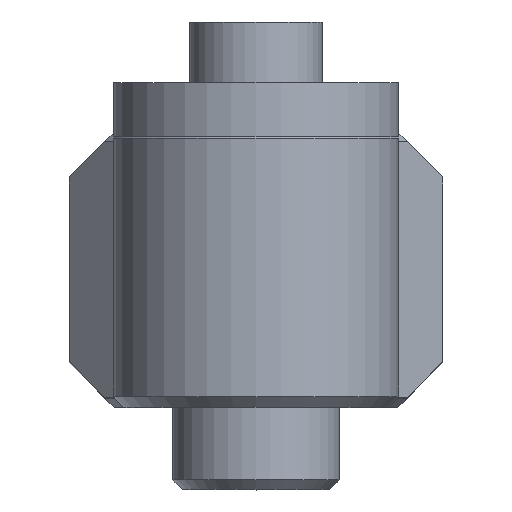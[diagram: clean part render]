
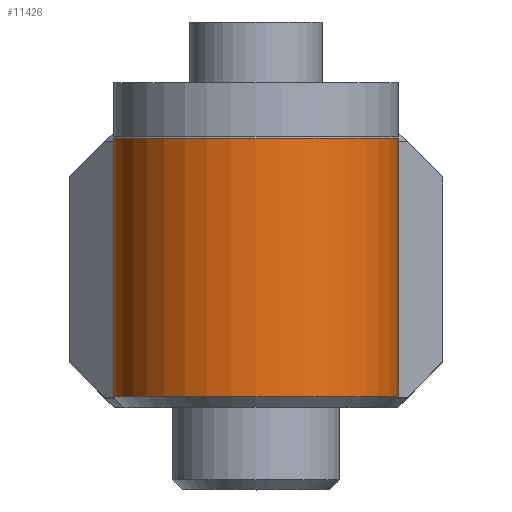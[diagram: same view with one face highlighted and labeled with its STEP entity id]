
A CAD part, top view. The second image highlights one B-rep face of the part: STEP entity #11426.
In plain terms, the highlighted cylindrical face has radius 54 mm (diameter 108 mm), a partial arc.
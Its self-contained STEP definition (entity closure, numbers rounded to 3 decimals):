
#20 = CARTESIAN_POINT ( 'NONE',  ( -54., 280., -49. ) ) ;
#201 = LINE ( 'NONE', #11009, #1800 ) ;
#388 = DIRECTION ( 'NONE',  ( 1., 0., 0. ) ) ;
#726 = CYLINDRICAL_SURFACE ( 'NONE', #1933, 54. ) ;
#874 = EDGE_LOOP ( 'NONE', ( #11788, #7705, #10899, #1501 ) ) ;
#1065 = CARTESIAN_POINT ( 'NONE',  ( 54., 280., 49. ) ) ;
#1400 = CARTESIAN_POINT ( 'NONE',  ( 0., 280., 49. ) ) ;
#1501 = ORIENTED_EDGE ( 'NONE', *, *, #10725, .T. ) ;
#1800 = VECTOR ( 'NONE', #6225, 1000. ) ;
#1808 = CARTESIAN_POINT ( 'NONE',  ( 0., 280., 45. ) ) ;
#1933 = AXIS2_PLACEMENT_3D ( 'NONE', #1808, #9638, #4711 ) ;
#3813 = EDGE_CURVE ( 'NONE', #5228, #5872, #5385, .T. ) ;
#4295 = VECTOR ( 'NONE', #12896, 1000. ) ;
#4375 = CARTESIAN_POINT ( 'NONE',  ( 0., 280., -49. ) ) ;
#4711 = DIRECTION ( 'NONE',  ( -1., 0., 0. ) ) ;
#5228 = VERTEX_POINT ( 'NONE', #7487 ) ;
#5385 = LINE ( 'NONE', #7114, #4295 ) ;
#5872 = VERTEX_POINT ( 'NONE', #1065 ) ;
#6086 = EDGE_CURVE ( 'NONE', #5228, #6335, #7925, .T. ) ;
#6179 = FACE_OUTER_BOUND ( 'NONE', #874, .T. ) ;
#6225 = DIRECTION ( 'NONE',  ( 0., 0., 1. ) ) ;
#6238 = CARTESIAN_POINT ( 'NONE',  ( -54., 280., 49. ) ) ;
#6335 = VERTEX_POINT ( 'NONE', #20 ) ;
#6656 = EDGE_CURVE ( 'NONE', #6335, #7986, #201, .T. ) ;
#7114 = CARTESIAN_POINT ( 'NONE',  ( 54., 280., 45. ) ) ;
#7487 = CARTESIAN_POINT ( 'NONE',  ( 54., 280., -49. ) ) ;
#7539 = DIRECTION ( 'NONE',  ( 0., 0., 1. ) ) ;
#7705 = ORIENTED_EDGE ( 'NONE', *, *, #6086, .T. ) ;
#7925 = CIRCLE ( 'NONE', #11084, 54. ) ;
#7986 = VERTEX_POINT ( 'NONE', #6238 ) ;
#8216 = CIRCLE ( 'NONE', #10514, 54. ) ;
#9522 = DIRECTION ( 'NONE',  ( 1., 0., 0. ) ) ;
#9638 = DIRECTION ( 'NONE',  ( 0., 0., 1. ) ) ;
#10514 = AXIS2_PLACEMENT_3D ( 'NONE', #1400, #12402, #9522 ) ;
#10725 = EDGE_CURVE ( 'NONE', #7986, #5872, #8216, .T. ) ;
#10899 = ORIENTED_EDGE ( 'NONE', *, *, #6656, .T. ) ;
#11009 = CARTESIAN_POINT ( 'NONE',  ( -54., 280., 45. ) ) ;
#11084 = AXIS2_PLACEMENT_3D ( 'NONE', #4375, #7539, #388 ) ;
#11426 = ADVANCED_FACE ( 'NONE', ( #6179 ), #726, .T. ) ;
#11788 = ORIENTED_EDGE ( 'NONE', *, *, #3813, .F. ) ;
#12402 = DIRECTION ( 'NONE',  ( 0., 0., -1. ) ) ;
#12896 = DIRECTION ( 'NONE',  ( 0., 0., 1. ) ) ;
